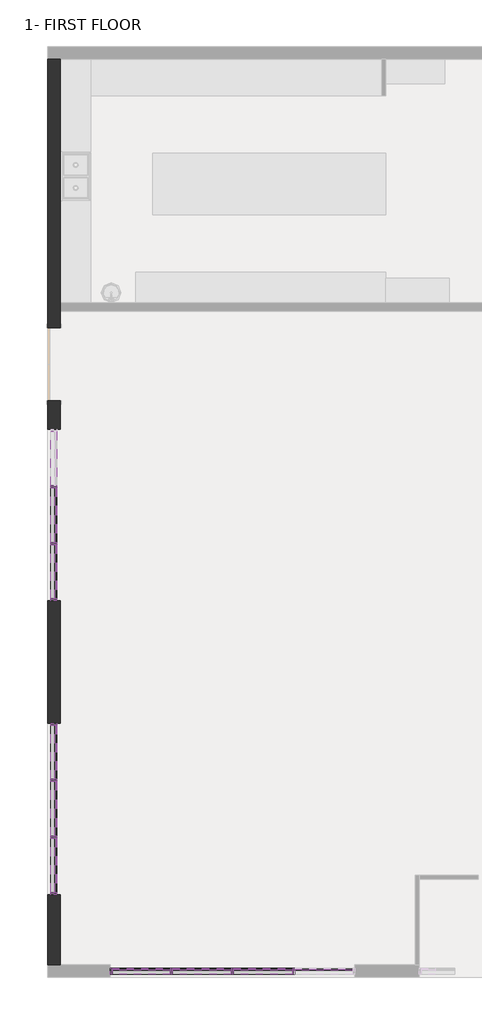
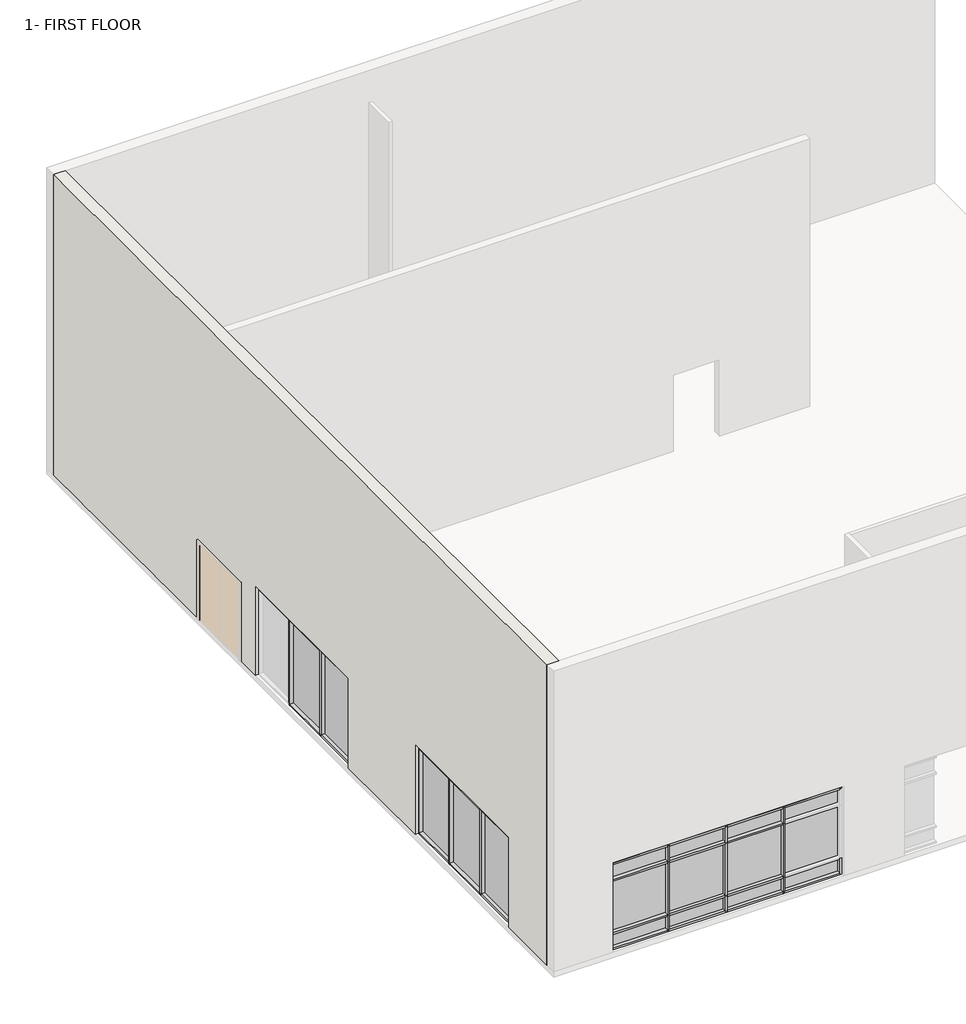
# One storey, part 1 of 4: 67 members, 26 plates, 1 wall.
"""IFC4 building model written with IfcOpenShell, lengths in millimetres."""

from ifc_helpers import new_model, si_unit, origin, place, context, project, spatial, faceted_brep, transform, mapped, element, save
from components import rectangular_mullion_50_x_150mm_84181acf, rectangular_mullion_50_x_150mm_a8ea6182, rectangular_mullion_50_x_150mm_6225e4e3, rectangular_mullion_50_x_150mm_662c37b1, rectangular_mullion_50_x_150mm_d49d4e0b, rectangular_mullion_50_x_150mm_5a2b04db, rectangular_mullion_50_x_150mm_00ccb73c, rectangular_mullion_50_x_150mm_edf85684, rectangular_mullion_50_x_150mm_3e65a84e, rectangular_mullion_50_x_150mm_abe4d200, rectangular_mullion_50_x_150mm_372c5efd, rectangular_mullion_50_x_150mm_1929d193, rectangular_mullion_50_x_150mm_e5e1dcca, rectangular_mullion_50_x_150mm_686aa266, rectangular_mullion_50_x_150mm_8236aad0, rectangular_mullion_50_x_150mm_3b5711fc, system_panel_glazed_17027882, system_panel_glazed_1e47d80b, system_panel_glazed_f43e7dcf, system_panel_glazed_e4d20453, system_panel_glazed_780b5e3c, system_panel_glazed_04b461fe, system_panel_glazed_99bfd8de, system_panel_glazed_f6cf1eac, system_panel_glazed_50f2205d, system_panel_glazed_25ba59a8, system_panel_glazed_ee2fd1b9, system_panel_glazed_14338285

model = new_model("IFC4")

# Units and contexts
model_context = context("Model", 3, world=origin())
ifc_project = project(units=[si_unit("LENGTHUNIT", "METRE", prefix="MILLI")], contexts=[model_context])

# Site, building, storey
site = spatial("IfcSite", under=ifc_project)
building = spatial("IfcBuilding", under=site)
storey = spatial("IfcBuildingStorey", under=building, Name="1- FIRST FLOOR", Elevation=0.0)

# Members
placement = place(None, origin())
rectangular_mullion_50_x_150mm_shape = rectangular_mullion_50_x_150mm_84181acf(model_context)
element("IfcMember", 1, ObjectType="Rectangular Mullion : 50 x 150mm", at=placement, inside=storey, context=model_context, shape_type="MappedRepresentation", body=[
    mapped(rectangular_mullion_50_x_150mm_shape, transform((-17387.1504871, -642.4213333, 2400.0), x_axis=(0.0, -1.0, 0.0), y_axis=(-1.0, 0.0, 0.0), z_axis=(0.0, 0.0, -1.0))),
])
element("IfcMember", 2, ObjectType="Rectangular Mullion : 50 x 150mm", at=placement, inside=storey, context=model_context, shape_type="MappedRepresentation", body=[
    mapped(rectangular_mullion_50_x_150mm_shape, transform((-17387.1504871, -2064.8213331, 2400.0), x_axis=(0.0, -1.0, 0.0), y_axis=(-1.0, 0.0, 0.0), z_axis=(0.0, 0.0, -1.0))),
])
element("IfcMember", 3, ObjectType="Rectangular Mullion : 50 x 150mm", at=placement, inside=storey, context=model_context, shape_type="MappedRepresentation", body=[
    mapped(rectangular_mullion_50_x_150mm_shape, transform((-17387.1504871, -7957.6213333, 2400.0), x_axis=(0.0, -1.0, 0.0), y_axis=(-1.0, 0.0, 0.0), z_axis=(0.0, 0.0, -1.0))),
])
element("IfcMember", 4, ObjectType="Rectangular Mullion : 50 x 150mm", at=placement, inside=storey, context=model_context, shape_type="MappedRepresentation", body=[
    mapped(rectangular_mullion_50_x_150mm_shape, transform((-17387.1504871, -9380.0213331, 2400.0), x_axis=(0.0, -1.0, 0.0), y_axis=(-1.0, 0.0, 0.0), z_axis=(0.0, 0.0, -1.0))),
])
element("IfcMember", 5, ObjectType="Rectangular Mullion : 50 x 150mm", at=placement, inside=storey, context=model_context, shape_type="MappedRepresentation", body=[
    mapped(rectangular_mullion_50_x_150mm_shape, transform((-14465.387987, -12710.1838332, 2400.0), x_axis=(1.0, 0.0, 0.0), y_axis=(0.0, -1.0, 0.0), z_axis=(0.0, 0.0, -1.0))),
])
element("IfcMember", 6, ObjectType="Rectangular Mullion : 50 x 150mm", at=placement, inside=storey, context=model_context, shape_type="MappedRepresentation", body=[
    mapped(rectangular_mullion_50_x_150mm_shape, transform((-12941.3879871, -12710.1838332, 2400.0), x_axis=(1.0, 0.0, 0.0), y_axis=(0.0, -1.0, 0.0), z_axis=(0.0, 0.0, -1.0))),
])
element("IfcMember", 7, ObjectType="Rectangular Mullion : 50 x 150mm", at=placement, inside=storey, context=model_context, shape_type="MappedRepresentation", body=[
    mapped(rectangular_mullion_50_x_150mm_shape, transform((-11417.3879873, -12710.1838332, 2400.0), x_axis=(1.0, 0.0, 0.0), y_axis=(0.0, -1.0, 0.0), z_axis=(0.0, 0.0, -1.0))),
])
rectangular_mullion_50_x_150mm_2_shape = rectangular_mullion_50_x_150mm_a8ea6182(model_context)
element("IfcMember", 8, ObjectType="Rectangular Mullion : 50 x 150mm", at=placement, inside=storey, context=model_context, shape_type="MappedRepresentation", body=[
    mapped(rectangular_mullion_50_x_150mm_2_shape, transform((-17387.1504871, -3487.2213332, 2400.0), x_axis=(0.0, -1.0, 0.0), y_axis=(-1.0, 0.0, 0.0), z_axis=(0.0, 0.0, -1.0))),
])
element("IfcMember", 9, ObjectType="Rectangular Mullion : 50 x 150mm", at=placement, inside=storey, context=model_context, shape_type="MappedRepresentation", body=[
    mapped(rectangular_mullion_50_x_150mm_2_shape, transform((-17387.1504871, -10802.4213332, 2400.0), x_axis=(0.0, -1.0, 0.0), y_axis=(-1.0, 0.0, 0.0), z_axis=(0.0, 0.0, -1.0))),
])
element("IfcMember", 10, ObjectType="Rectangular Mullion : 50 x 150mm", at=placement, inside=storey, context=model_context, shape_type="MappedRepresentation", body=[
    mapped(rectangular_mullion_50_x_150mm_2_shape, transform((-9893.3879871, -12710.1838332, 2400.0), x_axis=(1.0, 0.0, 0.0), y_axis=(0.0, -1.0, 0.0), z_axis=(0.0, 0.0, -1.0))),
])
element("IfcMember", 11, ObjectType="Rectangular Mullion : 50 x 150mm", at=placement, inside=storey, context=model_context, shape_type="MappedRepresentation", body=[
    mapped(rectangular_mullion_50_x_150mm_2_shape, transform((-17387.1504871, -6535.2213332, 2508.25), x_axis=(0.0, 1.0, 0.0), y_axis=(-1.0, 0.0, 0.0), z_axis=(0.0, 0.0, 1.0))),
])
element("IfcMember", 12, ObjectType="Rectangular Mullion : 50 x 150mm", at=placement, inside=storey, context=model_context, shape_type="MappedRepresentation", body=[
    mapped(rectangular_mullion_50_x_150mm_2_shape, transform((-15989.3879871, -12710.1838332, 2508.25), x_axis=(-1.0, 0.0, 0.0), y_axis=(0.0, -1.0, 0.0), z_axis=(0.0, 0.0, 1.0))),
])
rectangular_mullion_50_x_150mm_3_shape = rectangular_mullion_50_x_150mm_6225e4e3(model_context)
element("IfcMember", 13, ObjectType="Rectangular Mullion : 50 x 150mm", at=placement, inside=storey, context=model_context, shape_type="MappedRepresentation", body=[
    mapped(rectangular_mullion_50_x_150mm_3_shape, transform((-17387.1504871, -642.4213333, 0.0), x_axis=(0.0, -1.0, 0.0), y_axis=(-1.0, 0.0, 0.0), z_axis=(0.0, 0.0, -1.0))),
])
element("IfcMember", 14, ObjectType="Rectangular Mullion : 50 x 150mm", at=placement, inside=storey, context=model_context, shape_type="MappedRepresentation", body=[
    mapped(rectangular_mullion_50_x_150mm_3_shape, transform((-17387.1504871, -2064.8213331, 0.0), x_axis=(0.0, -1.0, 0.0), y_axis=(-1.0, 0.0, 0.0), z_axis=(0.0, 0.0, -1.0))),
])
element("IfcMember", 15, ObjectType="Rectangular Mullion : 50 x 150mm", at=placement, inside=storey, context=model_context, shape_type="MappedRepresentation", body=[
    mapped(rectangular_mullion_50_x_150mm_3_shape, transform((-17387.1504871, -7957.6213333, 0.0), x_axis=(0.0, -1.0, 0.0), y_axis=(-1.0, 0.0, 0.0), z_axis=(0.0, 0.0, -1.0))),
])
element("IfcMember", 16, ObjectType="Rectangular Mullion : 50 x 150mm", at=placement, inside=storey, context=model_context, shape_type="MappedRepresentation", body=[
    mapped(rectangular_mullion_50_x_150mm_3_shape, transform((-17387.1504871, -9380.0213331, 0.0), x_axis=(0.0, -1.0, 0.0), y_axis=(-1.0, 0.0, 0.0), z_axis=(0.0, 0.0, -1.0))),
])
rectangular_mullion_50_x_150mm_4_shape = rectangular_mullion_50_x_150mm_662c37b1(model_context)
element("IfcMember", 17, ObjectType="Rectangular Mullion : 50 x 150mm", at=placement, inside=storey, context=model_context, shape_type="MappedRepresentation", body=[
    mapped(rectangular_mullion_50_x_150mm_4_shape, transform((-17387.1504871, -3487.2213332, 0.0), x_axis=(0.0, -1.0, 0.0), y_axis=(-1.0, 0.0, 0.0), z_axis=(0.0, 0.0, -1.0))),
])
element("IfcMember", 18, ObjectType="Rectangular Mullion : 50 x 150mm", at=placement, inside=storey, context=model_context, shape_type="MappedRepresentation", body=[
    mapped(rectangular_mullion_50_x_150mm_4_shape, transform((-17387.1504871, -10802.4213332, 0.0), x_axis=(0.0, -1.0, 0.0), y_axis=(-1.0, 0.0, 0.0), z_axis=(0.0, 0.0, -1.0))),
])
element("IfcMember", 19, ObjectType="Rectangular Mullion : 50 x 150mm", at=placement, inside=storey, context=model_context, shape_type="MappedRepresentation", body=[
    mapped(rectangular_mullion_50_x_150mm_4_shape, transform((-17387.1504871, -6535.2213332, 2400.0), x_axis=(0.0, 1.0, 0.0), y_axis=(-1.0, 0.0, 0.0), z_axis=(0.0, 0.0, 1.0))),
])
rectangular_mullion_50_x_150mm_5_shape = rectangular_mullion_50_x_150mm_d49d4e0b(model_context)
element("IfcMember", 20, ObjectType="Rectangular Mullion : 50 x 150mm", at=placement, inside=storey, context=model_context, shape_type="MappedRepresentation", body=[
    mapped(rectangular_mullion_50_x_150mm_5_shape, transform((-17387.1504871, -3437.2213332, 2508.25), x_axis=(0.0, 0.0, 1.0), y_axis=(-1.0, 0.0, 0.0), z_axis=(0.0, -1.0, 0.0))),
])
element("IfcMember", 21, ObjectType="Rectangular Mullion : 50 x 150mm", at=placement, inside=storey, context=model_context, shape_type="MappedRepresentation", body=[
    mapped(rectangular_mullion_50_x_150mm_5_shape, transform((-17387.1504871, -617.4213333, 2508.25), x_axis=(0.0, 0.0, 1.0), y_axis=(-1.0, 0.0, 0.0), z_axis=(0.0, -1.0, 0.0))),
])
element("IfcMember", 22, ObjectType="Rectangular Mullion : 50 x 150mm", at=placement, inside=storey, context=model_context, shape_type="MappedRepresentation", body=[
    mapped(rectangular_mullion_50_x_150mm_5_shape, transform((-17387.1504871, -10752.4213332, 2508.25), x_axis=(0.0, 0.0, 1.0), y_axis=(-1.0, 0.0, 0.0), z_axis=(0.0, -1.0, 0.0))),
])
element("IfcMember", 23, ObjectType="Rectangular Mullion : 50 x 150mm", at=placement, inside=storey, context=model_context, shape_type="MappedRepresentation", body=[
    mapped(rectangular_mullion_50_x_150mm_5_shape, transform((-17387.1504871, -7932.6213333, 2508.25), x_axis=(0.0, 0.0, 1.0), y_axis=(-1.0, 0.0, 0.0), z_axis=(0.0, -1.0, 0.0))),
])
rectangular_mullion_50_x_150mm_6_shape = rectangular_mullion_50_x_150mm_5a2b04db(model_context)
element("IfcMember", 24, ObjectType="Rectangular Mullion : 50 x 150mm", at=placement, inside=storey, context=model_context, shape_type="MappedRepresentation", body=[
    mapped(rectangular_mullion_50_x_150mm_6_shape, transform((-17387.1504871, -2039.8213331, 2508.25), x_axis=(0.0, 0.0, 1.0), y_axis=(-1.0, 0.0, 0.0), z_axis=(0.0, -1.0, 0.0))),
])
element("IfcMember", 25, ObjectType="Rectangular Mullion : 50 x 150mm", at=placement, inside=storey, context=model_context, shape_type="MappedRepresentation", body=[
    mapped(rectangular_mullion_50_x_150mm_6_shape, transform((-17387.1504871, -9355.0213331, 2508.25), x_axis=(0.0, 0.0, 1.0), y_axis=(-1.0, 0.0, 0.0), z_axis=(0.0, -1.0, 0.0))),
])
element("IfcMember", 26, ObjectType="Rectangular Mullion : 50 x 150mm", at=placement, inside=storey, context=model_context, shape_type="MappedRepresentation", body=[
    mapped(rectangular_mullion_50_x_150mm_5_shape, transform((-17387.1504871, -2089.8213331, 0.0), x_axis=(0.0, 0.0, -1.0), y_axis=(-1.0, 0.0, 0.0), z_axis=(0.0, 1.0, 0.0))),
])
element("IfcMember", 27, ObjectType="Rectangular Mullion : 50 x 150mm", at=placement, inside=storey, context=model_context, shape_type="MappedRepresentation", body=[
    mapped(rectangular_mullion_50_x_150mm_5_shape, transform((-17387.1504871, -6585.2213332, 0.0), x_axis=(0.0, 0.0, -1.0), y_axis=(-1.0, 0.0, 0.0), z_axis=(0.0, 1.0, 0.0))),
])
element("IfcMember", 28, ObjectType="Rectangular Mullion : 50 x 150mm", at=placement, inside=storey, context=model_context, shape_type="MappedRepresentation", body=[
    mapped(rectangular_mullion_50_x_150mm_5_shape, transform((-17387.1504871, -9405.0213331, 0.0), x_axis=(0.0, 0.0, -1.0), y_axis=(-1.0, 0.0, 0.0), z_axis=(0.0, 1.0, 0.0))),
])
element("IfcMember", 29, ObjectType="Rectangular Mullion : 50 x 150mm", at=placement, inside=storey, context=model_context, shape_type="MappedRepresentation", body=[
    mapped(rectangular_mullion_50_x_150mm_6_shape, transform((-17387.1504871, -667.4213333, 0.0), x_axis=(0.0, 0.0, -1.0), y_axis=(-1.0, 0.0, 0.0), z_axis=(0.0, 1.0, 0.0))),
])
element("IfcMember", 30, ObjectType="Rectangular Mullion : 50 x 150mm", at=placement, inside=storey, context=model_context, shape_type="MappedRepresentation", body=[
    mapped(rectangular_mullion_50_x_150mm_6_shape, transform((-17387.1504871, -7982.6213333, 0.0), x_axis=(0.0, 0.0, -1.0), y_axis=(-1.0, 0.0, 0.0), z_axis=(0.0, 1.0, 0.0))),
])
rectangular_mullion_50_x_150mm_7_shape = rectangular_mullion_50_x_150mm_00ccb73c(model_context)
element("IfcMember", 31, ObjectType="Rectangular Mullion : 50 x 150mm", at=placement, inside=storey, context=model_context, shape_type="MappedRepresentation", body=[
    mapped(rectangular_mullion_50_x_150mm_7_shape, transform((-17387.1504871, -617.4213333, 2400.0), x_axis=(0.0, 0.0, 1.0), y_axis=(-1.0, 0.0, 0.0), z_axis=(0.0, -1.0, 0.0))),
])
element("IfcMember", 32, ObjectType="Rectangular Mullion : 50 x 150mm", at=placement, inside=storey, context=model_context, shape_type="MappedRepresentation", body=[
    mapped(rectangular_mullion_50_x_150mm_7_shape, transform((-17387.1504871, -3437.2213332, 2400.0), x_axis=(0.0, 0.0, 1.0), y_axis=(-1.0, 0.0, 0.0), z_axis=(0.0, -1.0, 0.0))),
])
element("IfcMember", 33, ObjectType="Rectangular Mullion : 50 x 150mm", at=placement, inside=storey, context=model_context, shape_type="MappedRepresentation", body=[
    mapped(rectangular_mullion_50_x_150mm_7_shape, transform((-17387.1504871, -7932.6213333, 2400.0), x_axis=(0.0, 0.0, 1.0), y_axis=(-1.0, 0.0, 0.0), z_axis=(0.0, -1.0, 0.0))),
])
element("IfcMember", 34, ObjectType="Rectangular Mullion : 50 x 150mm", at=placement, inside=storey, context=model_context, shape_type="MappedRepresentation", body=[
    mapped(rectangular_mullion_50_x_150mm_7_shape, transform((-17387.1504871, -10752.4213332, 2400.0), x_axis=(0.0, 0.0, 1.0), y_axis=(-1.0, 0.0, 0.0), z_axis=(0.0, -1.0, 0.0))),
])
rectangular_mullion_50_x_150mm_8_shape = rectangular_mullion_50_x_150mm_edf85684(model_context)
element("IfcMember", 35, ObjectType="Rectangular Mullion : 50 x 150mm", at=placement, inside=storey, context=model_context, shape_type="MappedRepresentation", body=[
    mapped(rectangular_mullion_50_x_150mm_8_shape, transform((-17387.1504871, -2039.8213331, 2400.0), x_axis=(0.0, 0.0, 1.0), y_axis=(-1.0, 0.0, 0.0), z_axis=(0.0, -1.0, 0.0))),
])
element("IfcMember", 36, ObjectType="Rectangular Mullion : 50 x 150mm", at=placement, inside=storey, context=model_context, shape_type="MappedRepresentation", body=[
    mapped(rectangular_mullion_50_x_150mm_8_shape, transform((-17387.1504871, -9355.0213331, 2400.0), x_axis=(0.0, 0.0, 1.0), y_axis=(-1.0, 0.0, 0.0), z_axis=(0.0, -1.0, 0.0))),
])
rectangular_mullion_50_x_150mm_9_shape = rectangular_mullion_50_x_150mm_3e65a84e(model_context)
element("IfcMember", 37, ObjectType="Rectangular Mullion : 50 x 150mm", at=placement, inside=storey, context=model_context, shape_type="MappedRepresentation", body=[
    mapped(rectangular_mullion_50_x_150mm_9_shape, transform((-9943.3879871, -12710.1838332, 2508.25), x_axis=(0.0, 0.0, 1.0), y_axis=(0.0, -1.0, 0.0), z_axis=(1.0, 0.0, 0.0))),
])
element("IfcMember", 38, ObjectType="Rectangular Mullion : 50 x 150mm", at=placement, inside=storey, context=model_context, shape_type="MappedRepresentation", body=[
    mapped(rectangular_mullion_50_x_150mm_9_shape, transform((-14490.387987, -12710.1838332, 2508.25), x_axis=(0.0, 0.0, 1.0), y_axis=(0.0, -1.0, 0.0), z_axis=(1.0, 0.0, 0.0))),
])
rectangular_mullion_50_x_150mm_10_shape = rectangular_mullion_50_x_150mm_abe4d200(model_context)
element("IfcMember", 39, ObjectType="Rectangular Mullion : 50 x 150mm", at=placement, inside=storey, context=model_context, shape_type="MappedRepresentation", body=[
    mapped(rectangular_mullion_50_x_150mm_10_shape, transform((-12966.3879871, -12710.1838332, 2508.25), x_axis=(0.0, 0.0, 1.0), y_axis=(0.0, -1.0, 0.0), z_axis=(1.0, 0.0, 0.0))),
])
element("IfcMember", 40, ObjectType="Rectangular Mullion : 50 x 150mm", at=placement, inside=storey, context=model_context, shape_type="MappedRepresentation", body=[
    mapped(rectangular_mullion_50_x_150mm_10_shape, transform((-11442.3879873, -12710.1838332, 2508.25), x_axis=(0.0, 0.0, 1.0), y_axis=(0.0, -1.0, 0.0), z_axis=(1.0, 0.0, 0.0))),
])
element("IfcMember", 41, ObjectType="Rectangular Mullion : 50 x 150mm", at=placement, inside=storey, context=model_context, shape_type="MappedRepresentation", body=[
    mapped(rectangular_mullion_50_x_150mm_9_shape, transform((-15939.3879871, -12710.1838332, 0.0), x_axis=(0.0, 0.0, -1.0), y_axis=(0.0, -1.0, 0.0), z_axis=(-1.0, 0.0, 0.0))),
])
element("IfcMember", 42, ObjectType="Rectangular Mullion : 50 x 150mm", at=placement, inside=storey, context=model_context, shape_type="MappedRepresentation", body=[
    mapped(rectangular_mullion_50_x_150mm_9_shape, transform((-11392.3879873, -12710.1838332, 0.0), x_axis=(0.0, 0.0, -1.0), y_axis=(0.0, -1.0, 0.0), z_axis=(-1.0, 0.0, 0.0))),
])
element("IfcMember", 43, ObjectType="Rectangular Mullion : 50 x 150mm", at=placement, inside=storey, context=model_context, shape_type="MappedRepresentation", body=[
    mapped(rectangular_mullion_50_x_150mm_10_shape, transform((-14440.387987, -12710.1838332, 0.0), x_axis=(0.0, 0.0, -1.0), y_axis=(0.0, -1.0, 0.0), z_axis=(-1.0, 0.0, 0.0))),
])
element("IfcMember", 44, ObjectType="Rectangular Mullion : 50 x 150mm", at=placement, inside=storey, context=model_context, shape_type="MappedRepresentation", body=[
    mapped(rectangular_mullion_50_x_150mm_10_shape, transform((-12916.3879871, -12710.1838332, 0.0), x_axis=(0.0, 0.0, -1.0), y_axis=(0.0, -1.0, 0.0), z_axis=(-1.0, 0.0, 0.0))),
])
rectangular_mullion_50_x_150mm_11_shape = rectangular_mullion_50_x_150mm_372c5efd(model_context)
element("IfcMember", 45, ObjectType="Rectangular Mullion : 50 x 150mm", at=placement, inside=storey, context=model_context, shape_type="MappedRepresentation", body=[
    mapped(rectangular_mullion_50_x_150mm_11_shape, transform((-14490.387987, -12710.1838332, 2400.0), x_axis=(0.0, 0.0, 1.0), y_axis=(0.0, -1.0, 0.0), z_axis=(1.0, 0.0, 0.0))),
])
element("IfcMember", 46, ObjectType="Rectangular Mullion : 50 x 150mm", at=placement, inside=storey, context=model_context, shape_type="MappedRepresentation", body=[
    mapped(rectangular_mullion_50_x_150mm_11_shape, transform((-9943.3879871, -12710.1838332, 2400.0), x_axis=(0.0, 0.0, 1.0), y_axis=(0.0, -1.0, 0.0), z_axis=(1.0, 0.0, 0.0))),
])
element("IfcMember", 47, ObjectType="Rectangular Mullion : 50 x 150mm", at=placement, inside=storey, context=model_context, shape_type="MappedRepresentation", body=[
    mapped(rectangular_mullion_50_x_150mm_11_shape, transform((-14490.387987, -12710.1838332, 1942.8), x_axis=(0.0, 0.0, 1.0), y_axis=(0.0, -1.0, 0.0), z_axis=(1.0, 0.0, 0.0))),
])
element("IfcMember", 48, ObjectType="Rectangular Mullion : 50 x 150mm", at=placement, inside=storey, context=model_context, shape_type="MappedRepresentation", body=[
    mapped(rectangular_mullion_50_x_150mm_11_shape, transform((-14490.387987, -12710.1838332, 457.2), x_axis=(0.0, 0.0, 1.0), y_axis=(0.0, -1.0, 0.0), z_axis=(1.0, 0.0, 0.0))),
])
rectangular_mullion_50_x_150mm_12_shape = rectangular_mullion_50_x_150mm_1929d193(model_context)
element("IfcMember", 49, ObjectType="Rectangular Mullion : 50 x 150mm", at=placement, inside=storey, context=model_context, shape_type="MappedRepresentation", body=[
    mapped(rectangular_mullion_50_x_150mm_12_shape, transform((-12966.3879871, -12710.1838332, 2400.0), x_axis=(0.0, 0.0, 1.0), y_axis=(0.0, -1.0, 0.0), z_axis=(1.0, 0.0, 0.0))),
])
element("IfcMember", 50, ObjectType="Rectangular Mullion : 50 x 150mm", at=placement, inside=storey, context=model_context, shape_type="MappedRepresentation", body=[
    mapped(rectangular_mullion_50_x_150mm_12_shape, transform((-11442.3879873, -12710.1838332, 2400.0), x_axis=(0.0, 0.0, 1.0), y_axis=(0.0, -1.0, 0.0), z_axis=(1.0, 0.0, 0.0))),
])
element("IfcMember", 51, ObjectType="Rectangular Mullion : 50 x 150mm", at=placement, inside=storey, context=model_context, shape_type="MappedRepresentation", body=[
    mapped(rectangular_mullion_50_x_150mm_12_shape, transform((-12966.3879871, -12710.1838332, 1942.8), x_axis=(0.0, 0.0, 1.0), y_axis=(0.0, -1.0, 0.0), z_axis=(1.0, 0.0, 0.0))),
])
element("IfcMember", 52, ObjectType="Rectangular Mullion : 50 x 150mm", at=placement, inside=storey, context=model_context, shape_type="MappedRepresentation", body=[
    mapped(rectangular_mullion_50_x_150mm_12_shape, transform((-11442.3879873, -12710.1838332, 1942.8), x_axis=(0.0, 0.0, 1.0), y_axis=(0.0, -1.0, 0.0), z_axis=(1.0, 0.0, 0.0))),
])
element("IfcMember", 53, ObjectType="Rectangular Mullion : 50 x 150mm", at=placement, inside=storey, context=model_context, shape_type="MappedRepresentation", body=[
    mapped(rectangular_mullion_50_x_150mm_12_shape, transform((-12966.3879871, -12710.1838332, 457.2), x_axis=(0.0, 0.0, 1.0), y_axis=(0.0, -1.0, 0.0), z_axis=(1.0, 0.0, 0.0))),
])
element("IfcMember", 54, ObjectType="Rectangular Mullion : 50 x 150mm", at=placement, inside=storey, context=model_context, shape_type="MappedRepresentation", body=[
    mapped(rectangular_mullion_50_x_150mm_12_shape, transform((-11442.3879873, -12710.1838332, 457.2), x_axis=(0.0, 0.0, 1.0), y_axis=(0.0, -1.0, 0.0), z_axis=(1.0, 0.0, 0.0))),
])
rectangular_mullion_50_x_150mm_13_shape = rectangular_mullion_50_x_150mm_e5e1dcca(model_context)
element("IfcMember", 55, ObjectType="Rectangular Mullion : 50 x 150mm", at=placement, inside=storey, context=model_context, shape_type="MappedRepresentation", body=[
    mapped(rectangular_mullion_50_x_150mm_13_shape, transform((-14465.387987, -12710.1838332, 1942.8), x_axis=(1.0, 0.0, 0.0), y_axis=(0.0, -1.0, 0.0), z_axis=(0.0, 0.0, -1.0))),
])
element("IfcMember", 56, ObjectType="Rectangular Mullion : 50 x 150mm", at=placement, inside=storey, context=model_context, shape_type="MappedRepresentation", body=[
    mapped(rectangular_mullion_50_x_150mm_13_shape, transform((-12941.3879871, -12710.1838332, 1942.8), x_axis=(1.0, 0.0, 0.0), y_axis=(0.0, -1.0, 0.0), z_axis=(0.0, 0.0, -1.0))),
])
element("IfcMember", 57, ObjectType="Rectangular Mullion : 50 x 150mm", at=placement, inside=storey, context=model_context, shape_type="MappedRepresentation", body=[
    mapped(rectangular_mullion_50_x_150mm_13_shape, transform((-11417.3879873, -12710.1838332, 1942.8), x_axis=(1.0, 0.0, 0.0), y_axis=(0.0, -1.0, 0.0), z_axis=(0.0, 0.0, -1.0))),
])
rectangular_mullion_50_x_150mm_14_shape = rectangular_mullion_50_x_150mm_686aa266(model_context)
element("IfcMember", 58, ObjectType="Rectangular Mullion : 50 x 150mm", at=placement, inside=storey, context=model_context, shape_type="MappedRepresentation", body=[
    mapped(rectangular_mullion_50_x_150mm_14_shape, transform((-15989.3879871, -12710.1838332, 2400.0), x_axis=(-1.0, 0.0, 0.0), y_axis=(0.0, -1.0, 0.0), z_axis=(0.0, 0.0, 1.0))),
])
element("IfcMember", 59, ObjectType="Rectangular Mullion : 50 x 150mm", at=placement, inside=storey, context=model_context, shape_type="MappedRepresentation", body=[
    mapped(rectangular_mullion_50_x_150mm_13_shape, transform((-14465.387987, -12710.1838332, 0.0), x_axis=(1.0, 0.0, 0.0), y_axis=(0.0, -1.0, 0.0), z_axis=(0.0, 0.0, -1.0))),
])
element("IfcMember", 60, ObjectType="Rectangular Mullion : 50 x 150mm", at=placement, inside=storey, context=model_context, shape_type="MappedRepresentation", body=[
    mapped(rectangular_mullion_50_x_150mm_13_shape, transform((-12941.3879871, -12710.1838332, 0.0), x_axis=(1.0, 0.0, 0.0), y_axis=(0.0, -1.0, 0.0), z_axis=(0.0, 0.0, -1.0))),
])
element("IfcMember", 61, ObjectType="Rectangular Mullion : 50 x 150mm", at=placement, inside=storey, context=model_context, shape_type="MappedRepresentation", body=[
    mapped(rectangular_mullion_50_x_150mm_13_shape, transform((-11417.3879873, -12710.1838332, 0.0), x_axis=(1.0, 0.0, 0.0), y_axis=(0.0, -1.0, 0.0), z_axis=(0.0, 0.0, -1.0))),
])
rectangular_mullion_50_x_150mm_15_shape = rectangular_mullion_50_x_150mm_8236aad0(model_context)
element("IfcMember", 62, ObjectType="Rectangular Mullion : 50 x 150mm", at=placement, inside=storey, context=model_context, shape_type="MappedRepresentation", body=[
    mapped(rectangular_mullion_50_x_150mm_15_shape, transform((-14465.387987, -12710.1838332, 457.2), x_axis=(1.0, 0.0, 0.0), y_axis=(0.0, -1.0, 0.0), z_axis=(0.0, 0.0, -1.0))),
])
element("IfcMember", 63, ObjectType="Rectangular Mullion : 50 x 150mm", at=placement, inside=storey, context=model_context, shape_type="MappedRepresentation", body=[
    mapped(rectangular_mullion_50_x_150mm_15_shape, transform((-12941.3879871, -12710.1838332, 457.2), x_axis=(1.0, 0.0, 0.0), y_axis=(0.0, -1.0, 0.0), z_axis=(0.0, 0.0, -1.0))),
])
element("IfcMember", 64, ObjectType="Rectangular Mullion : 50 x 150mm", at=placement, inside=storey, context=model_context, shape_type="MappedRepresentation", body=[
    mapped(rectangular_mullion_50_x_150mm_15_shape, transform((-11417.3879873, -12710.1838332, 457.2), x_axis=(1.0, 0.0, 0.0), y_axis=(0.0, -1.0, 0.0), z_axis=(0.0, 0.0, -1.0))),
])
element("IfcMember", 65, ObjectType="Rectangular Mullion : 50 x 150mm", at=placement, inside=storey, context=model_context, shape_type="MappedRepresentation", body=[
    mapped(rectangular_mullion_50_x_150mm_14_shape, transform((-9893.3879871, -12710.1838332, 0.0), x_axis=(1.0, 0.0, 0.0), y_axis=(0.0, -1.0, 0.0), z_axis=(0.0, 0.0, -1.0))),
])
rectangular_mullion_50_x_150mm_16_shape = rectangular_mullion_50_x_150mm_3b5711fc(model_context)
element("IfcMember", 66, ObjectType="Rectangular Mullion : 50 x 150mm", at=placement, inside=storey, context=model_context, shape_type="MappedRepresentation", body=[
    mapped(rectangular_mullion_50_x_150mm_16_shape, transform((-15989.3879871, -12710.1838332, 1942.8), x_axis=(-1.0, 0.0, 0.0), y_axis=(0.0, -1.0, 0.0), z_axis=(0.0, 0.0, 1.0))),
])
element("IfcMember", 67, ObjectType="Rectangular Mullion : 50 x 150mm", at=placement, inside=storey, context=model_context, shape_type="MappedRepresentation", body=[
    mapped(rectangular_mullion_50_x_150mm_14_shape, transform((-15989.3879871, -12710.1838332, 457.2), x_axis=(-1.0, 0.0, 0.0), y_axis=(0.0, -1.0, 0.0), z_axis=(0.0, 0.0, 1.0))),
])

# Plates
system_panel_glazed_shape = system_panel_glazed_17027882(model_context)
element("IfcPlate", 68, ObjectType="System Panel : Glazed", at=placement, inside=storey, context=model_context, shape_type="MappedRepresentation", body=[
    mapped(system_panel_glazed_shape, transform((-17387.1504871, -2763.5213332, 50.0), x_axis=(0.0, -1.0, 0.0), y_axis=(1.0, 0.0, 0.0), z_axis=(0.0, 0.0, 1.0))),
])
element("IfcPlate", 69, ObjectType="System Panel : Glazed", at=placement, inside=storey, context=model_context, shape_type="MappedRepresentation", body=[
    mapped(system_panel_glazed_shape, transform((-17387.1504871, -7258.9213333, 50.0), x_axis=(0.0, -1.0, 0.0), y_axis=(1.0, 0.0, 0.0), z_axis=(0.0, 0.0, 1.0))),
])
element("IfcPlate", 70, ObjectType="System Panel : Glazed", at=placement, inside=storey, context=model_context, shape_type="MappedRepresentation", body=[
    mapped(system_panel_glazed_shape, transform((-17387.1504871, -10078.7213332, 50.0), x_axis=(0.0, -1.0, 0.0), y_axis=(1.0, 0.0, 0.0), z_axis=(0.0, 0.0, 1.0))),
])
system_panel_glazed_2_shape = system_panel_glazed_1e47d80b(model_context)
element("IfcPlate", 71, ObjectType="System Panel : Glazed", at=placement, inside=storey, context=model_context, shape_type="MappedRepresentation", body=[
    mapped(system_panel_glazed_2_shape, transform((-17387.1504871, -1353.6213332, 50.0), x_axis=(0.0, -1.0, 0.0), y_axis=(1.0, 0.0, 0.0), z_axis=(0.0, 0.0, 1.0))),
])
element("IfcPlate", 72, ObjectType="System Panel : Glazed", at=placement, inside=storey, context=model_context, shape_type="MappedRepresentation", body=[
    mapped(system_panel_glazed_2_shape, transform((-17387.1504871, -8668.8213332, 50.0), x_axis=(0.0, -1.0, 0.0), y_axis=(1.0, 0.0, 0.0), z_axis=(0.0, 0.0, 1.0))),
])
system_panel_glazed_3_shape = system_panel_glazed_f43e7dcf(model_context)
element("IfcPlate", 73, ObjectType="System Panel : Glazed", at=placement, inside=storey, context=model_context, shape_type="MappedRepresentation", body=[
    mapped(system_panel_glazed_3_shape, transform((-17387.1504871, -2763.5213332, 2425.0), x_axis=(0.0, -1.0, 0.0), y_axis=(1.0, 0.0, 0.0), z_axis=(0.0, 0.0, 1.0))),
])
element("IfcPlate", 74, ObjectType="System Panel : Glazed", at=placement, inside=storey, context=model_context, shape_type="MappedRepresentation", body=[
    mapped(system_panel_glazed_3_shape, transform((-17387.1504871, -7258.9213333, 2425.0), x_axis=(0.0, -1.0, 0.0), y_axis=(1.0, 0.0, 0.0), z_axis=(0.0, 0.0, 1.0))),
])
element("IfcPlate", 75, ObjectType="System Panel : Glazed", at=placement, inside=storey, context=model_context, shape_type="MappedRepresentation", body=[
    mapped(system_panel_glazed_3_shape, transform((-17387.1504871, -10078.7213332, 2425.0), x_axis=(0.0, -1.0, 0.0), y_axis=(1.0, 0.0, 0.0), z_axis=(0.0, 0.0, 1.0))),
])
system_panel_glazed_4_shape = system_panel_glazed_e4d20453(model_context)
element("IfcPlate", 76, ObjectType="System Panel : Glazed", at=placement, inside=storey, context=model_context, shape_type="MappedRepresentation", body=[
    mapped(system_panel_glazed_4_shape, transform((-17387.1504871, -1353.6213332, 2425.0), x_axis=(0.0, -1.0, 0.0), y_axis=(1.0, 0.0, 0.0), z_axis=(0.0, 0.0, 1.0))),
])
element("IfcPlate", 77, ObjectType="System Panel : Glazed", at=placement, inside=storey, context=model_context, shape_type="MappedRepresentation", body=[
    mapped(system_panel_glazed_4_shape, transform((-17387.1504871, -8668.8213332, 2425.0), x_axis=(0.0, -1.0, 0.0), y_axis=(1.0, 0.0, 0.0), z_axis=(0.0, 0.0, 1.0))),
])
system_panel_glazed_5_shape = system_panel_glazed_780b5e3c(model_context)
element("IfcPlate", 78, ObjectType="System Panel : Glazed", at=placement, inside=storey, context=model_context, shape_type="MappedRepresentation", body=[
    mapped(system_panel_glazed_5_shape, transform((-15214.887987, -12710.1838332, 2425.0), x_axis=(1.0, 0.0, 0.0), y_axis=(0.0, 1.0, 0.0), z_axis=(0.0, 0.0, 1.0))),
])
element("IfcPlate", 79, ObjectType="System Panel : Glazed", at=placement, inside=storey, context=model_context, shape_type="MappedRepresentation", body=[
    mapped(system_panel_glazed_5_shape, transform((-10667.8879872, -12710.1838332, 2425.0), x_axis=(1.0, 0.0, 0.0), y_axis=(0.0, 1.0, 0.0), z_axis=(0.0, 0.0, 1.0))),
])
system_panel_glazed_6_shape = system_panel_glazed_04b461fe(model_context)
element("IfcPlate", 80, ObjectType="System Panel : Glazed", at=placement, inside=storey, context=model_context, shape_type="MappedRepresentation", body=[
    mapped(system_panel_glazed_6_shape, transform((-13703.387987, -12710.1838332, 2425.0), x_axis=(1.0, 0.0, 0.0), y_axis=(0.0, 1.0, 0.0), z_axis=(0.0, 0.0, 1.0))),
])
element("IfcPlate", 81, ObjectType="System Panel : Glazed", at=placement, inside=storey, context=model_context, shape_type="MappedRepresentation", body=[
    mapped(system_panel_glazed_6_shape, transform((-12179.3879872, -12710.1838332, 2425.0), x_axis=(1.0, 0.0, 0.0), y_axis=(0.0, 1.0, 0.0), z_axis=(0.0, 0.0, 1.0))),
])
system_panel_glazed_7_shape = system_panel_glazed_99bfd8de(model_context)
element("IfcPlate", 82, ObjectType="System Panel : Glazed", at=placement, inside=storey, context=model_context, shape_type="MappedRepresentation", body=[
    mapped(system_panel_glazed_7_shape, transform((-15214.887987, -12710.1838332, 1967.8), x_axis=(1.0, 0.0, 0.0), y_axis=(0.0, 1.0, 0.0), z_axis=(0.0, 0.0, 1.0))),
])
element("IfcPlate", 83, ObjectType="System Panel : Glazed", at=placement, inside=storey, context=model_context, shape_type="MappedRepresentation", body=[
    mapped(system_panel_glazed_7_shape, transform((-10667.8879872, -12710.1838332, 1967.8), x_axis=(1.0, 0.0, 0.0), y_axis=(0.0, 1.0, 0.0), z_axis=(0.0, 0.0, 1.0))),
])
system_panel_glazed_8_shape = system_panel_glazed_f6cf1eac(model_context)
element("IfcPlate", 84, ObjectType="System Panel : Glazed", at=placement, inside=storey, context=model_context, shape_type="MappedRepresentation", body=[
    mapped(system_panel_glazed_8_shape, transform((-13703.387987, -12710.1838332, 1967.8), x_axis=(1.0, 0.0, 0.0), y_axis=(0.0, 1.0, 0.0), z_axis=(0.0, 0.0, 1.0))),
])
element("IfcPlate", 85, ObjectType="System Panel : Glazed", at=placement, inside=storey, context=model_context, shape_type="MappedRepresentation", body=[
    mapped(system_panel_glazed_8_shape, transform((-12179.3879872, -12710.1838332, 1967.8), x_axis=(1.0, 0.0, 0.0), y_axis=(0.0, 1.0, 0.0), z_axis=(0.0, 0.0, 1.0))),
])
system_panel_glazed_9_shape = system_panel_glazed_50f2205d(model_context)
element("IfcPlate", 86, ObjectType="System Panel : Glazed", at=placement, inside=storey, context=model_context, shape_type="MappedRepresentation", body=[
    mapped(system_panel_glazed_9_shape, transform((-15214.887987, -12710.1838332, 50.0), x_axis=(1.0, 0.0, 0.0), y_axis=(0.0, 1.0, 0.0), z_axis=(0.0, 0.0, 1.0))),
])
element("IfcPlate", 87, ObjectType="System Panel : Glazed", at=placement, inside=storey, context=model_context, shape_type="MappedRepresentation", body=[
    mapped(system_panel_glazed_9_shape, transform((-10667.8879872, -12710.1838332, 50.0), x_axis=(1.0, 0.0, 0.0), y_axis=(0.0, 1.0, 0.0), z_axis=(0.0, 0.0, 1.0))),
])
system_panel_glazed_10_shape = system_panel_glazed_25ba59a8(model_context)
element("IfcPlate", 88, ObjectType="System Panel : Glazed", at=placement, inside=storey, context=model_context, shape_type="MappedRepresentation", body=[
    mapped(system_panel_glazed_10_shape, transform((-13703.387987, -12710.1838332, 50.0), x_axis=(1.0, 0.0, 0.0), y_axis=(0.0, 1.0, 0.0), z_axis=(0.0, 0.0, 1.0))),
])
element("IfcPlate", 89, ObjectType="System Panel : Glazed", at=placement, inside=storey, context=model_context, shape_type="MappedRepresentation", body=[
    mapped(system_panel_glazed_10_shape, transform((-12179.3879872, -12710.1838332, 50.0), x_axis=(1.0, 0.0, 0.0), y_axis=(0.0, 1.0, 0.0), z_axis=(0.0, 0.0, 1.0))),
])
system_panel_glazed_11_shape = system_panel_glazed_ee2fd1b9(model_context)
element("IfcPlate", 90, ObjectType="System Panel : Glazed", at=placement, inside=storey, context=model_context, shape_type="MappedRepresentation", body=[
    mapped(system_panel_glazed_11_shape, transform((-15214.887987, -12710.1838332, 482.2), x_axis=(1.0, 0.0, 0.0), y_axis=(0.0, 1.0, 0.0), z_axis=(0.0, 0.0, 1.0))),
])
element("IfcPlate", 91, ObjectType="System Panel : Glazed", at=placement, inside=storey, context=model_context, shape_type="MappedRepresentation", body=[
    mapped(system_panel_glazed_11_shape, transform((-10667.8879872, -12710.1838332, 482.2), x_axis=(1.0, 0.0, 0.0), y_axis=(0.0, 1.0, 0.0), z_axis=(0.0, 0.0, 1.0))),
])
system_panel_glazed_12_shape = system_panel_glazed_14338285(model_context)
element("IfcPlate", 92, ObjectType="System Panel : Glazed", at=placement, inside=storey, context=model_context, shape_type="MappedRepresentation", body=[
    mapped(system_panel_glazed_12_shape, transform((-13703.387987, -12710.1838332, 482.2), x_axis=(1.0, 0.0, 0.0), y_axis=(0.0, 1.0, 0.0), z_axis=(0.0, 0.0, 1.0))),
])
element("IfcPlate", 93, ObjectType="System Panel : Glazed", at=placement, inside=storey, context=model_context, shape_type="MappedRepresentation", body=[
    mapped(system_panel_glazed_12_shape, transform((-12179.3879872, -12710.1838332, 482.2), x_axis=(1.0, 0.0, 0.0), y_axis=(0.0, 1.0, 0.0), z_axis=(0.0, 0.0, 1.0))),
])

# Wall
element("IfcWall", 94, ObjectType="Exterior - BRICK + CMU", at=placement, inside=storey, context=model_context, shape_type="Brep", body=[
    faceted_brep([(-17544.3129871, -12553.0213332, 8385.96875), (-17544.3129871, 10002.1786668, 8385.96875), (-17544.3129871, 10002.1786668, 0.0), (-17544.3129871, 3318.8036668, 0.0), (-17544.3129871, 3318.8036668, 2133.6), (-17544.3129871, 1490.0036668, 2133.6), (-17544.3129871, 1490.0036668, 0.0), (-17544.3129871, 779.9786668, 0.0), (-17544.3129871, 779.9786668, 2508.25), (-17544.3129871, -3487.2213332, 2508.25), (-17544.3129871, -3487.2213332, 0.0), (-17544.3129871, -6535.2213332, 0.0), (-17544.3129871, -6535.2213332, 2508.25), (-17544.3129871, -10802.4213332, 2508.25), (-17544.3129871, -10802.4213332, 0.0), (-17544.3129871, -12553.0213332, 0.0), (-17229.9879871, 10002.1786668, 8385.96875), (-17229.9879871, -12553.0213332, 8385.96875), (-17229.9879871, -12553.0213332, 0.0), (-17229.9879871, -10802.4213332, 0.0), (-17229.9879871, -10802.4213332, 2508.25), (-17229.9879871, -6535.2213332, 2508.25), (-17229.9879871, -6535.2213332, 0.0), (-17229.9879871, -3487.2213332, 0.0), (-17229.9879871, -3487.2213332, 2508.25), (-17229.9879871, 779.9786668, 2508.25), (-17229.9879871, 779.9786668, 0.0), (-17229.9879871, 1490.0036668, 0.0), (-17229.9879871, 1490.0036668, 2133.6), (-17229.9879871, 3318.8036668, 2133.6), (-17229.9879871, 3318.8036668, 0.0), (-17229.9879871, 3728.3786668, 0.0), (-17229.9879871, 3931.5786668, 0.0), (-17229.9879871, 10002.1786668, 0.0)], [[[0, 1, 2, 3, 4, 5, 6, 7, 8, 9, 10, 11, 12, 13, 14, 15]], [[16, 17, 18, 19, 20, 21, 22, 23, 24, 25, 26, 27, 28, 29, 30, 31, 32, 33]], [[2, 33, 32, 31, 30, 3]], [[18, 15, 14, 19]], [[26, 7, 6, 27]], [[10, 23, 22, 11]], [[1, 0, 17, 16]], [[2, 1, 16, 33]], [[0, 15, 18, 17]], [[25, 8, 7, 26]], [[8, 25, 24, 9]], [[9, 24, 23, 10]], [[21, 12, 11, 22]], [[12, 21, 20, 13]], [[13, 20, 19, 14]], [[29, 4, 3, 30]], [[4, 29, 28, 5]], [[5, 28, 27, 6]]]),
])

save(model, "model.ifc")
